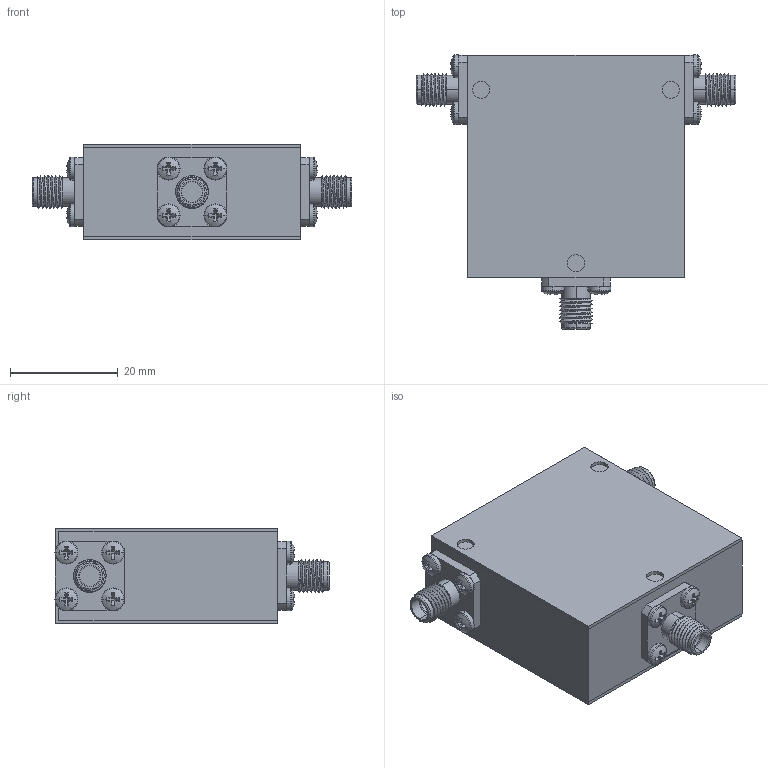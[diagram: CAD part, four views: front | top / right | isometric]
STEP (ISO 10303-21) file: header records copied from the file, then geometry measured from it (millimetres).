
FILE_DESCRIPTION (( 'STEP AP214' ), '1' );
FILE_NAME ('Package 1 Circ FFF.step', '2021-12-01T20:56:20', ( '' ), ( '' ), 'SwSTEP 2.0', 'SolidWorks 2016', '' );
FILE_SCHEMA (( 'AUTOMOTIVE_DESIGN' ));
Length unit declared in the file: inch
Products named in the file (5): Package 1 Circ FFF; Delta SMA-Female 0.500 flange Threaded; pan cross head_ai_CR-PHMS 0.086-56x0.125x0.125-N; Package 1; Package Size 1
Assembly tree (17 placements, depth 2):
  Package 1 Circ FFF
    Package Size 1
    Package 1
    pan cross head_ai_CR-PHMS 0.086-56x0.125x0.125-N  x12
    Delta SMA-Female 0.500 flange Threaded  x3
Bounding box: 59.18 x 50.76 x 17.78 mm (x, y, z)
Volume: 30539.3 mm3; surface area: 16833 mm2
Topology: 17 solids, 17 shells, 421 faces, 957 edges, 591 vertices
Faces by surface type: plane 232, cylinder 126, torus 30, sphere 24, bspline 9
Entity records: 3729 total; most frequent: CARTESIAN_POINT 1205, DIRECTION 527, ORIENTED_EDGE 434, EDGE_CURVE 217, AXIS2_PLACEMENT_3D 211, VERTEX_POINT 139, EDGE_LOOP 116, LINE 105
